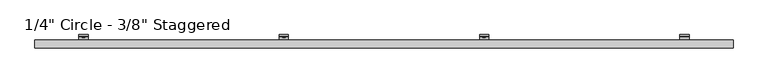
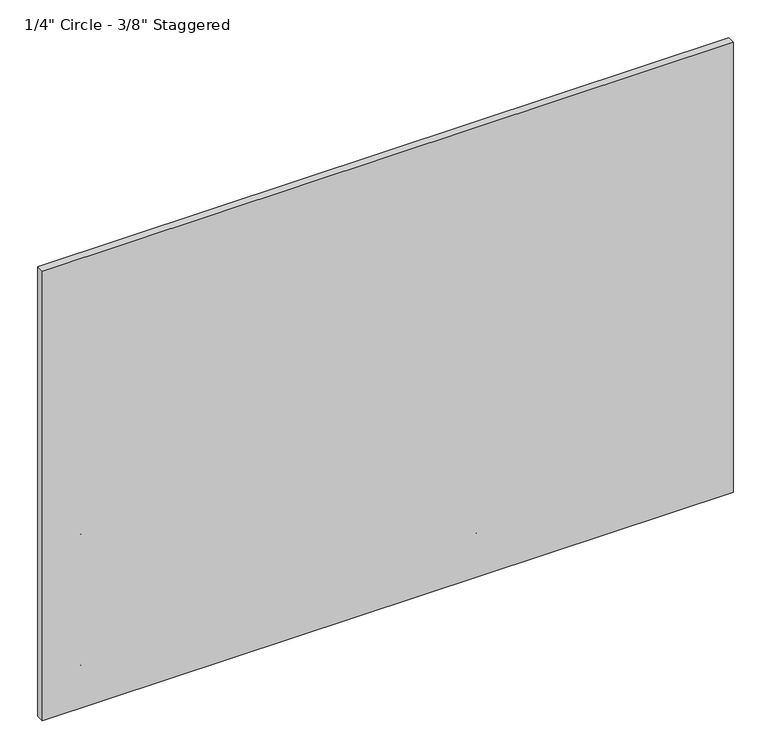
"""IFC4 building model written with IfcOpenShell, lengths in millimetres: plate geometry."""

from ifc_helpers import new_model, si_unit, point, frame, frame_2d, origin, place, context, project, spatial, polyline, circle_curve, trimmed, segment, composite_curve, outline, extrude, source, transform, mapped, element, save
from ifc_brep_helpers import plane_surface, cylinder_surface, revolved_surface, advanced_brep


def plate_e7208e3d(model_context):
    return source(origin(), model_context, "Body", "SolidModel", [
        advanced_brep(
        [(1236.096202, -47.625, 737.3555208), (1236.096202, -51.2819443, 729.6934884), (1236.096202, -89.5163624, 702.9214606), (1236.096202, -92.9330442, 706.3381424), (1236.096202, -54.3526876, 733.3523989), (1236.096202, -52.4002, 737.3555917), (1236.096202, -52.4002, 771.5482059), (1236.096202, -47.625, 771.5482059), (1274.196202, -47.625, 737.3555208), (1274.196202, -47.625, 771.5482059), (1274.196202, -52.4002, 771.5482059), (1274.196202, -52.4002, 737.3555917), (1274.196202, -54.3526876, 733.3523989), (1274.196202, -92.9330442, 706.3381424), (1274.196202, -89.5163624, 702.9214606), (1274.196202, -51.2819443, 729.6934884), (1261.8873909, -52.4002, 757.5029897), (1261.8873909, -52.4002, 751.1529897), (1245.6595307, -52.4002, 751.1529897), (1245.6595307, -52.4002, 757.5029897), (1261.8873909, -47.625, 751.1529897), (1261.8873909, -47.625, 757.5029897), (1245.6595307, -47.625, 757.5029897), (1245.6595307, -47.625, 751.1529897)],
        [
            (0, 1, circle_curve(frame((1236.096202, -57.4802202, 737.3555208), z_axis=(-1.0, 0.0, 0.0), x_axis=(0.0, -1.0, 0.0)), 9.8552202)),
            (1, 2),
            (2, 3),
            (3, 4),
            (4, 5, circle_curve(frame((1236.096202, -57.4803246, 737.3555917), z_axis=(1.0, 0.0, 0.0), x_axis=(0.0, -1.0, 0.0)), 5.0801246)),
            (5, 6),
            (6, 7),
            (7, 0),
            (8, 9),
            (9, 10),
            (10, 11),
            (11, 12, circle_curve(frame((1274.196202, -57.4803246, 737.3555917), z_axis=(-1.0, 0.0, 0.0), x_axis=(0.0, -1.0, 0.0)), 5.0801246)),
            (12, 13),
            (13, 14),
            (14, 15),
            (15, 8, circle_curve(frame((1274.196202, -57.4802202, 737.3555208), z_axis=(1.0, 0.0, 0.0), x_axis=(0.0, -1.0, 0.0)), 9.8552202)),
            (4, 12),
            (11, 5),
            (10, 6),
            (16, 17, circle_curve(frame((1261.8873909, -52.4002, 754.3279897), z_axis=(0.0, 1.0, 0.0), x_axis=(0.0, 0.0, -1.0)), 3.175)),
            (17, 18),
            (18, 19, circle_curve(frame((1245.6595307, -52.4002, 754.3279897), z_axis=(0.0, 1.0, 0.0), x_axis=(0.0, 0.0, -1.0)), 3.175)),
            (19, 16),
            (9, 7),
            (8, 0),
            (20, 21, circle_curve(frame((1261.8873909, -47.625, 754.3279897), z_axis=(0.0, -1.0, 0.0), x_axis=(0.0, 0.0, -1.0)), 3.175)),
            (21, 22),
            (22, 23, circle_curve(frame((1245.6595307, -47.625, 754.3279897), z_axis=(0.0, -1.0, 0.0), x_axis=(0.0, 0.0, -1.0)), 3.175)),
            (23, 20),
            (15, 1),
            (20, 17),
            (16, 21),
            (19, 22),
            (18, 23),
            (14, 2),
            (13, 3),
        ],
        [
            plane_surface(frame((1236.096202, -67.3354404, 737.3555208), z_axis=(-1.0, 0.0, 0.0), x_axis=(0.0, 0.0, 1.0))),
            plane_surface(frame((1274.196202, -67.3354404, 737.3555208), z_axis=(1.0, 0.0, 0.0), x_axis=(0.0, 0.0, -1.0))),
            revolved_surface(polyline([(1274.196202, -62.5604492, 737.3555917), (1236.096202, -62.5604492, 737.3555917)]), (1274.196202, -57.4803246, 737.3555917), (1.0, 0.0, 0.0)),
            plane_surface(frame((1236.096202, -52.4002, 737.3555917), z_axis=(0.0, -1.0, 0.0), x_axis=(1.0, 0.0, 0.0))),
            plane_surface(frame((1236.096202, -52.4002, 771.5482059), z_axis=(0.0, 0.0, 1.0), x_axis=(1.0, 0.0, 0.0))),
            plane_surface(frame((1236.096202, -47.625, 771.5482059), z_axis=(0.0, 1.0, 6.99569853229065e-12), x_axis=(1.0, 0.0, 0.0))),
            cylinder_surface(frame((1274.196202, -57.4802202, 737.3555208), z_axis=(-1.0, 0.0, 0.0), x_axis=(0.0, -1.0, 0.0)), 9.8552202),
            revolved_surface(polyline([(1261.8873909, -52.4002, 751.1529897), (1261.8873909, -47.625, 751.1529897)]), (1261.8873909, -25.6669948, 754.3279897), (0.0, -1.0, 0.0)),
            plane_surface(frame((1261.8873909, -86.677982, 757.5029897), z_axis=(0.0, 0.0, -1.0), x_axis=(0.0, 1.0, 0.0))),
            revolved_surface(polyline([(1245.6595307, -52.4002, 751.1529897), (1245.6595307, -47.625, 751.1529897)]), (1245.6595307, -25.6669948, 754.3279897), (0.0, -1.0, 0.0)),
            plane_surface(frame((1245.6595307, -86.677982, 751.1529897), z_axis=(-2.7237733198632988e-11, 0.0, 1.0), x_axis=(0.0, 1.0, 0.0))),
            plane_surface(frame((1236.096202, -51.2819443, 729.6934884), z_axis=(0.0, 0.5735764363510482, -0.8191520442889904), x_axis=(1.0, 0.0, 0.0))),
            plane_surface(frame((1236.096202, -89.5163624, 702.9214606), z_axis=(0.0, -0.7071067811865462, -0.7071067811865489), x_axis=(1.0, 0.0, 0.0))),
            plane_surface(frame((1236.096202, -92.9330442, 706.3381424), z_axis=(0.0, -0.5735764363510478, 0.8191520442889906), x_axis=(1.0, 0.0, 0.0))),
        ],
        [
            (0, [[1, 2, 3, 4, 5, 6, 7, 8]]),
            (1, [[9, 10, 11, 12, 13, 14, 15, 16]]),
            (2, [[-5, 17, -12, 18]]),
            (3, [[-6, -18, -11, 19], [20, 21, 22, 23]]),
            (4, [[-7, -19, -10, 24]]),
            (5, [[-8, -24, -9, 25], [26, 27, 28, 29]]),
            (6, [[-1, -25, -16, 30]]),
            (7, [[31, -20, 32, -26]]),
            (8, [[-32, -23, 33, -27]]),
            (9, [[-33, -22, 34, -28]]),
            (10, [[-31, -29, -34, -21]]),
            (11, [[-2, -30, -15, 35]]),
            (12, [[-3, -35, -14, 36]]),
            (13, [[-4, -36, -13, -17]]),
        ],
    ),
        extrude(outline(polyline([(754.5048329, 413.3640708), (750.1591204, 415.873069), (750.1591204, 420.8910656), (754.5048329, 423.4000639), (758.8505454, 420.8910656), (758.8505454, 415.873069), (754.5048329, 413.3640708)])), frame((0.0, -58.7607779, 0.0), z_axis=(0.0, 1.0, 0.0), x_axis=(0.0, 0.0, 1.0)), (0.0, 0.0, 1.0), 11.1357779),
        extrude(outline(composite_curve([segment(trimmed(circle_curve(frame_2d((754.5981399, 418.3820673)), 6.35), [point((754.5981399, 424.7320673))], [point((754.5981399, 412.0320673))], False, "CARTESIAN"), True, "CONTINUOUS"), segment(trimmed(circle_curve(frame_2d((754.5981399, 418.3820673)), 6.35), [point((754.5981399, 412.0320673))], [point((754.5981399, 424.7320673))], False, "CARTESIAN"), True, "CONTINUOUS")], self_intersect=False)), frame((0.0, -57.0817743, 0.0), z_axis=(0.0, 1.0, 0.0), x_axis=(0.0, 0.0, 1.0)), (0.0, 0.0, 1.0), 9.4567743),
        advanced_brep(
        [(399.3320673, -47.625, 737.3555208), (399.3320673, -51.2819443, 729.6934884), (399.3320673, -89.5163624, 702.9214606), (399.3320673, -92.9330442, 706.3381424), (399.3320673, -54.3526876, 733.3523989), (399.3320673, -52.4002, 737.3555917), (399.3320673, -52.4002, 771.5482059), (399.3320673, -47.625, 771.5482059), (437.4320673, -47.625, 737.3555208), (437.4320673, -47.625, 771.5482059), (437.4320673, -52.4002, 771.5482059), (437.4320673, -52.4002, 737.3555917), (437.4320673, -54.3526876, 733.3523989), (437.4320673, -92.9330442, 706.3381424), (437.4320673, -89.5163624, 702.9214606), (437.4320673, -51.2819443, 729.6934884), (425.1232562, -52.4002, 757.5029897), (425.1232562, -52.4002, 751.1529897), (408.895396, -52.4002, 751.1529897), (408.895396, -52.4002, 757.5029897), (425.1232562, -47.625, 751.1529897), (425.1232562, -47.625, 757.5029897), (408.895396, -47.625, 757.5029897), (408.895396, -47.625, 751.1529897)],
        [
            (0, 1, circle_curve(frame((399.3320673, -57.4802202, 737.3555208), z_axis=(-1.0, 0.0, 0.0), x_axis=(0.0, -1.0, 0.0)), 9.8552202)),
            (1, 2),
            (2, 3),
            (3, 4),
            (4, 5, circle_curve(frame((399.3320673, -57.4803246, 737.3555917), z_axis=(1.0, 0.0, 0.0), x_axis=(0.0, -1.0, 0.0)), 5.0801246)),
            (5, 6),
            (6, 7),
            (7, 0),
            (8, 9),
            (9, 10),
            (10, 11),
            (11, 12, circle_curve(frame((437.4320673, -57.4803246, 737.3555917), z_axis=(-1.0, 0.0, 0.0), x_axis=(0.0, -1.0, 0.0)), 5.0801246)),
            (12, 13),
            (13, 14),
            (14, 15),
            (15, 8, circle_curve(frame((437.4320673, -57.4802202, 737.3555208), z_axis=(1.0, 0.0, 0.0), x_axis=(0.0, -1.0, 0.0)), 9.8552202)),
            (4, 12),
            (11, 5),
            (10, 6),
            (16, 17, circle_curve(frame((425.1232562, -52.4002, 754.3279897), z_axis=(0.0, 1.0, 0.0), x_axis=(0.0, 0.0, -1.0)), 3.175)),
            (17, 18),
            (18, 19, circle_curve(frame((408.895396, -52.4002, 754.3279897), z_axis=(0.0, 1.0, 0.0), x_axis=(0.0, 0.0, -1.0)), 3.175)),
            (19, 16),
            (9, 7),
            (8, 0),
            (20, 21, circle_curve(frame((425.1232562, -47.625, 754.3279897), z_axis=(0.0, -1.0, 0.0), x_axis=(0.0, 0.0, -1.0)), 3.175)),
            (21, 22),
            (22, 23, circle_curve(frame((408.895396, -47.625, 754.3279897), z_axis=(0.0, -1.0, 0.0), x_axis=(0.0, 0.0, -1.0)), 3.175)),
            (23, 20),
            (15, 1),
            (20, 17),
            (16, 21),
            (19, 22),
            (18, 23),
            (14, 2),
            (13, 3),
        ],
        [
            plane_surface(frame((399.3320673, -67.3354404, 737.3555208), z_axis=(-1.0, 0.0, 0.0), x_axis=(0.0, 0.0, 1.0))),
            plane_surface(frame((437.4320673, -67.3354404, 737.3555208), z_axis=(1.0, 0.0, 0.0), x_axis=(0.0, 0.0, -1.0))),
            revolved_surface(polyline([(437.4320673, -62.5604492, 737.3555917), (399.3320673, -62.5604492, 737.3555917)]), (437.4320673, -57.4803246, 737.3555917), (1.0, 0.0, 0.0)),
            plane_surface(frame((399.3320673, -52.4002, 737.3555917), z_axis=(0.0, -1.0, 0.0), x_axis=(1.0, 0.0, 0.0))),
            plane_surface(frame((399.3320673, -52.4002, 771.5482059), z_axis=(0.0, 0.0, 1.0), x_axis=(1.0, 0.0, 0.0))),
            plane_surface(frame((399.3320673, -47.625, 771.5482059), z_axis=(0.0, 1.0, 6.99569853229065e-12), x_axis=(1.0, 0.0, 0.0))),
            cylinder_surface(frame((437.4320673, -57.4802202, 737.3555208), z_axis=(-1.0, 0.0, 0.0), x_axis=(0.0, -1.0, 0.0)), 9.8552202),
            revolved_surface(polyline([(425.1232562, -52.4002, 751.1529897), (425.1232562, -47.625, 751.1529897)]), (425.1232562, -25.6669948, 754.3279897), (0.0, -1.0, 0.0)),
            plane_surface(frame((425.1232562, -86.677982, 757.5029897), z_axis=(0.0, 0.0, -1.0), x_axis=(0.0, 1.0, 0.0))),
            revolved_surface(polyline([(408.895396, -52.4002, 751.1529897), (408.895396, -47.625, 751.1529897)]), (408.895396, -25.6669948, 754.3279897), (0.0, -1.0, 0.0)),
            plane_surface(frame((408.895396, -86.677982, 751.1529897), z_axis=(-2.7237733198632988e-11, 0.0, 1.0), x_axis=(0.0, 1.0, 0.0))),
            plane_surface(frame((399.3320673, -51.2819443, 729.6934884), z_axis=(0.0, 0.5735764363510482, -0.8191520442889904), x_axis=(1.0, 0.0, 0.0))),
            plane_surface(frame((399.3320673, -89.5163624, 702.9214606), z_axis=(0.0, -0.7071067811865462, -0.7071067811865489), x_axis=(1.0, 0.0, 0.0))),
            plane_surface(frame((399.3320673, -92.9330442, 706.3381424), z_axis=(0.0, -0.5735764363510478, 0.8191520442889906), x_axis=(1.0, 0.0, 0.0))),
        ],
        [
            (0, [[1, 2, 3, 4, 5, 6, 7, 8]]),
            (1, [[9, 10, 11, 12, 13, 14, 15, 16]]),
            (2, [[-5, 17, -12, 18]]),
            (3, [[-6, -18, -11, 19], [20, 21, 22, 23]]),
            (4, [[-7, -19, -10, 24]]),
            (5, [[-8, -24, -9, 25], [26, 27, 28, 29]]),
            (6, [[-1, -25, -16, 30]]),
            (7, [[31, -20, 32, -26]]),
            (8, [[-32, -23, 33, -27]]),
            (9, [[-33, -22, 34, -28]]),
            (10, [[-31, -29, -34, -21]]),
            (11, [[-2, -30, -15, 35]]),
            (12, [[-3, -35, -14, 36]]),
            (13, [[-4, -36, -13, -17]]),
        ],
    ),
        extrude(outline(polyline([(754.5048329, -423.4000639), (750.1591204, -420.8910656), (750.1591204, -415.873069), (754.5048329, -413.3640708), (758.8505454, -415.873069), (758.8505454, -420.8910656), (754.5048329, -423.4000639)])), frame((0.0, -58.7607779, 0.0), z_axis=(0.0, 1.0, 0.0), x_axis=(0.0, 0.0, 1.0)), (0.0, 0.0, 1.0), 11.1357779),
        extrude(outline(composite_curve([segment(trimmed(circle_curve(frame_2d((754.5981399, -418.3820673)), 6.35), [point((754.5981399, -412.0320673))], [point((754.5981399, -424.7320673))], False, "CARTESIAN"), True, "CONTINUOUS"), segment(trimmed(circle_curve(frame_2d((754.5981399, -418.3820673)), 6.35), [point((754.5981399, -424.7320673))], [point((754.5981399, -412.0320673))], False, "CARTESIAN"), True, "CONTINUOUS")], self_intersect=False)), frame((0.0, -57.0817743, 0.0), z_axis=(0.0, 1.0, 0.0), x_axis=(0.0, 0.0, 1.0)), (0.0, 0.0, 1.0), 9.4567743),
        advanced_brep(
        [(-437.4320673, -47.625, 737.3555208), (-437.4320673, -51.2819443, 729.6934884), (-437.4320673, -89.5163624, 702.9214606), (-437.4320673, -92.9330442, 706.3381424), (-437.4320673, -54.3526876, 733.3523989), (-437.4320673, -52.4002, 737.3555917), (-437.4320673, -52.4002, 771.5482059), (-437.4320673, -47.625, 771.5482059), (-399.3320673, -47.625, 737.3555208), (-399.3320673, -47.625, 771.5482059), (-399.3320673, -52.4002, 771.5482059), (-399.3320673, -52.4002, 737.3555917), (-399.3320673, -54.3526876, 733.3523989), (-399.3320673, -92.9330442, 706.3381424), (-399.3320673, -89.5163624, 702.9214606), (-399.3320673, -51.2819443, 729.6934884), (-411.6408784, -52.4002, 757.5029897), (-411.6408784, -52.4002, 751.1529897), (-427.8687386, -52.4002, 751.1529897), (-427.8687386, -52.4002, 757.5029897), (-411.6408784, -47.625, 751.1529897), (-411.6408784, -47.625, 757.5029897), (-427.8687386, -47.625, 757.5029897), (-427.8687386, -47.625, 751.1529897)],
        [
            (0, 1, circle_curve(frame((-437.4320673, -57.4802202, 737.3555208), z_axis=(-1.0, 0.0, 0.0), x_axis=(0.0, -1.0, 0.0)), 9.8552202)),
            (1, 2),
            (2, 3),
            (3, 4),
            (4, 5, circle_curve(frame((-437.4320673, -57.4803246, 737.3555917), z_axis=(1.0, 0.0, 0.0), x_axis=(0.0, -1.0, 0.0)), 5.0801246)),
            (5, 6),
            (6, 7),
            (7, 0),
            (8, 9),
            (9, 10),
            (10, 11),
            (11, 12, circle_curve(frame((-399.3320673, -57.4803246, 737.3555917), z_axis=(-1.0, 0.0, 0.0), x_axis=(0.0, -1.0, 0.0)), 5.0801246)),
            (12, 13),
            (13, 14),
            (14, 15),
            (15, 8, circle_curve(frame((-399.3320673, -57.4802202, 737.3555208), z_axis=(1.0, 0.0, 0.0), x_axis=(0.0, -1.0, 0.0)), 9.8552202)),
            (4, 12),
            (11, 5),
            (10, 6),
            (16, 17, circle_curve(frame((-411.6408784, -52.4002, 754.3279897), z_axis=(0.0, 1.0, 0.0), x_axis=(0.0, 0.0, -1.0)), 3.175)),
            (17, 18),
            (18, 19, circle_curve(frame((-427.8687386, -52.4002, 754.3279897), z_axis=(0.0, 1.0, 0.0), x_axis=(0.0, 0.0, -1.0)), 3.175)),
            (19, 16),
            (9, 7),
            (8, 0),
            (20, 21, circle_curve(frame((-411.6408784, -47.625, 754.3279897), z_axis=(0.0, -1.0, 0.0), x_axis=(0.0, 0.0, -1.0)), 3.175)),
            (21, 22),
            (22, 23, circle_curve(frame((-427.8687386, -47.625, 754.3279897), z_axis=(0.0, -1.0, 0.0), x_axis=(0.0, 0.0, -1.0)), 3.175)),
            (23, 20),
            (15, 1),
            (20, 17),
            (16, 21),
            (19, 22),
            (18, 23),
            (14, 2),
            (13, 3),
        ],
        [
            plane_surface(frame((-437.4320673, -67.3354404, 737.3555208), z_axis=(-1.0, 0.0, 0.0), x_axis=(0.0, 0.0, 1.0))),
            plane_surface(frame((-399.3320673, -67.3354404, 737.3555208), z_axis=(1.0, 0.0, 0.0), x_axis=(0.0, 0.0, -1.0))),
            revolved_surface(polyline([(-399.3320673, -62.5604492, 737.3555917), (-437.4320673, -62.5604492, 737.3555917)]), (-399.3320673, -57.4803246, 737.3555917), (1.0, 0.0, 0.0)),
            plane_surface(frame((-437.4320673, -52.4002, 737.3555917), z_axis=(0.0, -1.0, 0.0), x_axis=(1.0, 0.0, 0.0))),
            plane_surface(frame((-437.4320673, -52.4002, 771.5482059), z_axis=(0.0, 0.0, 1.0), x_axis=(1.0, 0.0, 0.0))),
            plane_surface(frame((-437.4320673, -47.625, 771.5482059), z_axis=(0.0, 1.0, 6.99569853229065e-12), x_axis=(1.0, 0.0, 0.0))),
            cylinder_surface(frame((-399.3320673, -57.4802202, 737.3555208), z_axis=(-1.0, 0.0, 0.0), x_axis=(0.0, -1.0, 0.0)), 9.8552202),
            revolved_surface(polyline([(-411.6408784, -52.4002, 751.1529897), (-411.6408784, -47.625, 751.1529897)]), (-411.6408784, -25.6669948, 754.3279897), (0.0, -1.0, 0.0)),
            plane_surface(frame((-411.6408784, -86.677982, 757.5029897), z_axis=(0.0, 0.0, -1.0), x_axis=(0.0, 1.0, 0.0))),
            revolved_surface(polyline([(-427.8687386, -52.4002, 751.1529897), (-427.8687386, -47.625, 751.1529897)]), (-427.8687386, -25.6669948, 754.3279897), (0.0, -1.0, 0.0)),
            plane_surface(frame((-427.8687386, -86.677982, 751.1529897), z_axis=(-2.7237733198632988e-11, 0.0, 1.0), x_axis=(0.0, 1.0, 0.0))),
            plane_surface(frame((-437.4320673, -51.2819443, 729.6934884), z_axis=(0.0, 0.5735764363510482, -0.8191520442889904), x_axis=(1.0, 0.0, 0.0))),
            plane_surface(frame((-437.4320673, -89.5163624, 702.9214606), z_axis=(0.0, -0.7071067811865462, -0.7071067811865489), x_axis=(1.0, 0.0, 0.0))),
            plane_surface(frame((-437.4320673, -92.9330442, 706.3381424), z_axis=(0.0, -0.5735764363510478, 0.8191520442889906), x_axis=(1.0, 0.0, 0.0))),
        ],
        [
            (0, [[1, 2, 3, 4, 5, 6, 7, 8]]),
            (1, [[9, 10, 11, 12, 13, 14, 15, 16]]),
            (2, [[-5, 17, -12, 18]]),
            (3, [[-6, -18, -11, 19], [20, 21, 22, 23]]),
            (4, [[-7, -19, -10, 24]]),
            (5, [[-8, -24, -9, 25], [26, 27, 28, 29]]),
            (6, [[-1, -25, -16, 30]]),
            (7, [[31, -20, 32, -26]]),
            (8, [[-32, -23, 33, -27]]),
            (9, [[-33, -22, 34, -28]]),
            (10, [[-31, -29, -34, -21]]),
            (11, [[-2, -30, -15, 35]]),
            (12, [[-3, -35, -14, 36]]),
            (13, [[-4, -36, -13, -17]]),
        ],
    ),
        extrude(outline(polyline([(754.5048329, -1260.1641986), (750.1591204, -1257.6552003), (750.1591204, -1252.6372037), (754.5048329, -1250.1282054), (758.8505454, -1252.6372037), (758.8505454, -1257.6552003), (754.5048329, -1260.1641986)])), frame((0.0, -58.7607779, 0.0), z_axis=(0.0, 1.0, 0.0), x_axis=(0.0, 0.0, 1.0)), (0.0, 0.0, 1.0), 11.1357779),
        extrude(outline(composite_curve([segment(trimmed(circle_curve(frame_2d((754.5981399, -1255.146202)), 6.35), [point((754.5981399, -1248.796202))], [point((754.5981399, -1261.496202))], False, "CARTESIAN"), True, "CONTINUOUS"), segment(trimmed(circle_curve(frame_2d((754.5981399, -1255.146202)), 6.35), [point((754.5981399, -1261.496202))], [point((754.5981399, -1248.796202))], False, "CARTESIAN"), True, "CONTINUOUS")], self_intersect=False)), frame((0.0, -57.0817743, 0.0), z_axis=(0.0, 1.0, 0.0), x_axis=(0.0, 0.0, 1.0)), (0.0, 0.0, 1.0), 9.4567743),
        advanced_brep(
        [(-1274.196202, -47.625, 737.3555208), (-1274.196202, -51.2819443, 729.6934884), (-1274.196202, -89.5163624, 702.9214606), (-1274.196202, -92.9330442, 706.3381424), (-1274.196202, -54.3526876, 733.3523989), (-1274.196202, -52.4002, 737.3555917), (-1274.196202, -52.4002, 771.5482059), (-1274.196202, -47.625, 771.5482059), (-1236.096202, -47.625, 737.3555208), (-1236.096202, -47.625, 771.5482059), (-1236.096202, -52.4002, 771.5482059), (-1236.096202, -52.4002, 737.3555917), (-1236.096202, -54.3526876, 733.3523989), (-1236.096202, -92.9330442, 706.3381424), (-1236.096202, -89.5163624, 702.9214606), (-1236.096202, -51.2819443, 729.6934884), (-1248.4050131, -52.4002, 757.5029897), (-1248.4050131, -52.4002, 751.1529897), (-1264.6328733, -52.4002, 751.1529897), (-1264.6328733, -52.4002, 757.5029897), (-1248.4050131, -47.625, 751.1529897), (-1248.4050131, -47.625, 757.5029897), (-1264.6328733, -47.625, 757.5029897), (-1264.6328733, -47.625, 751.1529897)],
        [
            (0, 1, circle_curve(frame((-1274.196202, -57.4802202, 737.3555208), z_axis=(-1.0, 0.0, 0.0), x_axis=(0.0, -1.0, 0.0)), 9.8552202)),
            (1, 2),
            (2, 3),
            (3, 4),
            (4, 5, circle_curve(frame((-1274.196202, -57.4803246, 737.3555917), z_axis=(1.0, 0.0, 0.0), x_axis=(0.0, -1.0, 0.0)), 5.0801246)),
            (5, 6),
            (6, 7),
            (7, 0),
            (8, 9),
            (9, 10),
            (10, 11),
            (11, 12, circle_curve(frame((-1236.096202, -57.4803246, 737.3555917), z_axis=(-1.0, 0.0, 0.0), x_axis=(0.0, -1.0, 0.0)), 5.0801246)),
            (12, 13),
            (13, 14),
            (14, 15),
            (15, 8, circle_curve(frame((-1236.096202, -57.4802202, 737.3555208), z_axis=(1.0, 0.0, 0.0), x_axis=(0.0, -1.0, 0.0)), 9.8552202)),
            (4, 12),
            (11, 5),
            (10, 6),
            (16, 17, circle_curve(frame((-1248.4050131, -52.4002, 754.3279897), z_axis=(0.0, 1.0, 0.0), x_axis=(0.0, 0.0, -1.0)), 3.175)),
            (17, 18),
            (18, 19, circle_curve(frame((-1264.6328733, -52.4002, 754.3279897), z_axis=(0.0, 1.0, 0.0), x_axis=(0.0, 0.0, -1.0)), 3.175)),
            (19, 16),
            (9, 7),
            (8, 0),
            (20, 21, circle_curve(frame((-1248.4050131, -47.625, 754.3279897), z_axis=(0.0, -1.0, 0.0), x_axis=(0.0, 0.0, -1.0)), 3.175)),
            (21, 22),
            (22, 23, circle_curve(frame((-1264.6328733, -47.625, 754.3279897), z_axis=(0.0, -1.0, 0.0), x_axis=(0.0, 0.0, -1.0)), 3.175)),
            (23, 20),
            (15, 1),
            (20, 17),
            (16, 21),
            (19, 22),
            (18, 23),
            (14, 2),
            (13, 3),
        ],
        [
            plane_surface(frame((-1274.196202, -67.3354404, 737.3555208), z_axis=(-1.0, 0.0, 0.0), x_axis=(0.0, 0.0, 1.0))),
            plane_surface(frame((-1236.096202, -67.3354404, 737.3555208), z_axis=(1.0, 0.0, 0.0), x_axis=(0.0, 0.0, -1.0))),
            revolved_surface(polyline([(-1236.096202, -62.5604492, 737.3555917), (-1274.196202, -62.5604492, 737.3555917)]), (-1236.096202, -57.4803246, 737.3555917), (1.0, 0.0, 0.0)),
            plane_surface(frame((-1274.196202, -52.4002, 737.3555917), z_axis=(0.0, -1.0, 0.0), x_axis=(1.0, 0.0, 0.0))),
            plane_surface(frame((-1274.196202, -52.4002, 771.5482059), z_axis=(0.0, 0.0, 1.0), x_axis=(1.0, 0.0, 0.0))),
            plane_surface(frame((-1274.196202, -47.625, 771.5482059), z_axis=(0.0, 1.0, 6.99569853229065e-12), x_axis=(1.0, 0.0, 0.0))),
            cylinder_surface(frame((-1236.096202, -57.4802202, 737.3555208), z_axis=(-1.0, 0.0, 0.0), x_axis=(0.0, -1.0, 0.0)), 9.8552202),
            revolved_surface(polyline([(-1248.4050131, -52.4002, 751.1529897), (-1248.4050131, -47.625, 751.1529897)]), (-1248.4050131, -25.6669948, 754.3279897), (0.0, -1.0, 0.0)),
            plane_surface(frame((-1248.4050131, -86.677982, 757.5029897), z_axis=(0.0, 0.0, -1.0), x_axis=(0.0, 1.0, 0.0))),
            revolved_surface(polyline([(-1264.6328733, -52.4002, 751.1529897), (-1264.6328733, -47.625, 751.1529897)]), (-1264.6328733, -25.6669948, 754.3279897), (0.0, -1.0, 0.0)),
            plane_surface(frame((-1264.6328733, -86.677982, 751.1529897), z_axis=(-2.7237733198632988e-11, 0.0, 1.0), x_axis=(0.0, 1.0, 0.0))),
            plane_surface(frame((-1274.196202, -51.2819443, 729.6934884), z_axis=(0.0, 0.5735764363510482, -0.8191520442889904), x_axis=(1.0, 0.0, 0.0))),
            plane_surface(frame((-1274.196202, -89.5163624, 702.9214606), z_axis=(0.0, -0.7071067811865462, -0.7071067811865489), x_axis=(1.0, 0.0, 0.0))),
            plane_surface(frame((-1274.196202, -92.9330442, 706.3381424), z_axis=(0.0, -0.5735764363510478, 0.8191520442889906), x_axis=(1.0, 0.0, 0.0))),
        ],
        [
            (0, [[1, 2, 3, 4, 5, 6, 7, 8]]),
            (1, [[9, 10, 11, 12, 13, 14, 15, 16]]),
            (2, [[-5, 17, -12, 18]]),
            (3, [[-6, -18, -11, 19], [20, 21, 22, 23]]),
            (4, [[-7, -19, -10, 24]]),
            (5, [[-8, -24, -9, 25], [26, 27, 28, 29]]),
            (6, [[-1, -25, -16, 30]]),
            (7, [[31, -20, 32, -26]]),
            (8, [[-32, -23, 33, -27]]),
            (9, [[-33, -22, 34, -28]]),
            (10, [[-31, -29, -34, -21]]),
            (11, [[-2, -30, -15, 35]]),
            (12, [[-3, -35, -14, 36]]),
            (13, [[-4, -36, -13, -17]]),
        ],
    ),
        extrude(outline(polyline([(169.8795323, 1250.1282054), (165.5338197, 1252.6372037), (165.5338197, 1257.6552003), (169.8795323, 1260.1641986), (174.2252448, 1257.6552003), (174.2252448, 1252.6372037), (169.8795323, 1250.1282054)])), frame((0.0, -58.7607779, 0.0), z_axis=(0.0, 1.0, 0.0), x_axis=(0.0, 0.0, 1.0)), (0.0, 0.0, 1.0), 11.1357779),
        extrude(outline(composite_curve([segment(trimmed(circle_curve(frame_2d((169.9728392, 1255.146202)), 6.35), [point((169.9728392, 1261.496202))], [point((169.9728392, 1248.796202))], False, "CARTESIAN"), True, "CONTINUOUS"), segment(trimmed(circle_curve(frame_2d((169.9728392, 1255.146202)), 6.35), [point((169.9728392, 1248.796202))], [point((169.9728392, 1261.496202))], False, "CARTESIAN"), True, "CONTINUOUS")], self_intersect=False)), frame((0.0, -57.0817743, 0.0), z_axis=(0.0, 1.0, 0.0), x_axis=(0.0, 0.0, 1.0)), (0.0, 0.0, 1.0), 9.4567743),
        advanced_brep(
        [(1236.096202, -47.625, 152.7302202), (1236.096202, -51.2819443, 145.0681877), (1236.096202, -89.5163624, 118.29616), (1236.096202, -92.9330442, 121.7128418), (1236.096202, -54.3526876, 148.7270983), (1236.096202, -52.4002, 152.7302911), (1236.096202, -52.4002, 186.9229053), (1236.096202, -47.625, 186.9229053), (1274.196202, -47.625, 152.7302202), (1274.196202, -47.625, 186.9229053), (1274.196202, -52.4002, 186.9229053), (1274.196202, -52.4002, 152.7302911), (1274.196202, -54.3526876, 148.7270983), (1274.196202, -92.9330442, 121.7128418), (1274.196202, -89.5163624, 118.29616), (1274.196202, -51.2819443, 145.0681877), (1261.8873909, -52.4002, 172.8776891), (1261.8873909, -52.4002, 166.5276891), (1245.6595307, -52.4002, 166.5276891), (1245.6595307, -52.4002, 172.8776891), (1261.8873909, -47.625, 166.5276891), (1261.8873909, -47.625, 172.8776891), (1245.6595307, -47.625, 172.8776891), (1245.6595307, -47.625, 166.5276891)],
        [
            (0, 1, circle_curve(frame((1236.096202, -57.4802202, 152.7302202), z_axis=(-1.0, 0.0, 0.0), x_axis=(0.0, -1.0, 0.0)), 9.8552202)),
            (1, 2),
            (2, 3),
            (3, 4),
            (4, 5, circle_curve(frame((1236.096202, -57.4803246, 152.7302911), z_axis=(1.0, 0.0, 0.0), x_axis=(0.0, -1.0, 0.0)), 5.0801246)),
            (5, 6),
            (6, 7),
            (7, 0),
            (8, 9),
            (9, 10),
            (10, 11),
            (11, 12, circle_curve(frame((1274.196202, -57.4803246, 152.7302911), z_axis=(-1.0, 0.0, 0.0), x_axis=(0.0, -1.0, 0.0)), 5.0801246)),
            (12, 13),
            (13, 14),
            (14, 15),
            (15, 8, circle_curve(frame((1274.196202, -57.4802202, 152.7302202), z_axis=(1.0, 0.0, 0.0), x_axis=(0.0, -1.0, 0.0)), 9.8552202)),
            (4, 12),
            (11, 5),
            (10, 6),
            (16, 17, circle_curve(frame((1261.8873909, -52.4002, 169.7026891), z_axis=(0.0, 1.0, 0.0), x_axis=(0.0, 0.0, -1.0)), 3.175)),
            (17, 18),
            (18, 19, circle_curve(frame((1245.6595307, -52.4002, 169.7026891), z_axis=(0.0, 1.0, 0.0), x_axis=(0.0, 0.0, -1.0)), 3.175)),
            (19, 16),
            (9, 7),
            (8, 0),
            (20, 21, circle_curve(frame((1261.8873909, -47.625, 169.7026891), z_axis=(0.0, -1.0, 0.0), x_axis=(0.0, 0.0, -1.0)), 3.175)),
            (21, 22),
            (22, 23, circle_curve(frame((1245.6595307, -47.625, 169.7026891), z_axis=(0.0, -1.0, 0.0), x_axis=(0.0, 0.0, -1.0)), 3.175)),
            (23, 20),
            (15, 1),
            (20, 17),
            (16, 21),
            (19, 22),
            (18, 23),
            (14, 2),
            (13, 3),
        ],
        [
            plane_surface(frame((1236.096202, -67.3354404, 152.7302202), z_axis=(-1.0, 0.0, 0.0), x_axis=(0.0, 0.0, 1.0))),
            plane_surface(frame((1274.196202, -67.3354404, 152.7302202), z_axis=(1.0, 0.0, 0.0), x_axis=(0.0, 0.0, -1.0))),
            revolved_surface(polyline([(1274.196202, -62.5604492, 152.7302911), (1236.096202, -62.5604492, 152.7302911)]), (1274.196202, -57.4803246, 152.7302911), (1.0, 0.0, 0.0)),
            plane_surface(frame((1236.096202, -52.4002, 152.7302911), z_axis=(0.0, -1.0, 0.0), x_axis=(1.0, 0.0, 0.0))),
            plane_surface(frame((1236.096202, -52.4002, 186.9229053), z_axis=(0.0, 0.0, 1.0), x_axis=(1.0, 0.0, 0.0))),
            plane_surface(frame((1236.096202, -47.625, 186.9229053), z_axis=(0.0, 1.0, 6.99569853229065e-12), x_axis=(1.0, 0.0, 0.0))),
            cylinder_surface(frame((1274.196202, -57.4802202, 152.7302202), z_axis=(-1.0, 0.0, 0.0), x_axis=(0.0, -1.0, 0.0)), 9.8552202),
            revolved_surface(polyline([(1261.8873909, -52.4002, 166.52768909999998), (1261.8873909, -47.625, 166.52768909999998)]), (1261.8873909, -25.6669948, 169.7026891), (0.0, -1.0, 0.0)),
            plane_surface(frame((1261.8873909, -86.677982, 172.8776891), z_axis=(0.0, 0.0, -1.0), x_axis=(0.0, 1.0, 0.0))),
            revolved_surface(polyline([(1245.6595307, -52.4002, 166.52768909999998), (1245.6595307, -47.625, 166.52768909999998)]), (1245.6595307, -25.6669948, 169.7026891), (0.0, -1.0, 0.0)),
            plane_surface(frame((1245.6595307, -86.677982, 166.5276891), z_axis=(-2.723774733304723e-11, 0.0, 1.0), x_axis=(0.0, 1.0, 0.0))),
            plane_surface(frame((1236.096202, -51.2819443, 145.0681877), z_axis=(0.0, 0.5735764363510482, -0.8191520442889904), x_axis=(1.0, 0.0, 0.0))),
            plane_surface(frame((1236.096202, -89.5163624, 118.29616), z_axis=(0.0, -0.7071067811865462, -0.7071067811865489), x_axis=(1.0, 0.0, 0.0))),
            plane_surface(frame((1236.096202, -92.9330442, 121.7128418), z_axis=(0.0, -0.5735764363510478, 0.8191520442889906), x_axis=(1.0, 0.0, 0.0))),
        ],
        [
            (0, [[1, 2, 3, 4, 5, 6, 7, 8]]),
            (1, [[9, 10, 11, 12, 13, 14, 15, 16]]),
            (2, [[-5, 17, -12, 18]]),
            (3, [[-6, -18, -11, 19], [20, 21, 22, 23]]),
            (4, [[-7, -19, -10, 24]]),
            (5, [[-8, -24, -9, 25], [26, 27, 28, 29]]),
            (6, [[-1, -25, -16, 30]]),
            (7, [[31, -20, 32, -26]]),
            (8, [[-32, -23, 33, -27]]),
            (9, [[-33, -22, 34, -28]]),
            (10, [[-31, -29, -34, -21]]),
            (11, [[-2, -30, -15, 35]]),
            (12, [[-3, -35, -14, 36]]),
            (13, [[-4, -36, -13, -17]]),
        ],
    ),
        extrude(outline(polyline([(169.8795323, 413.3640708), (165.5338197, 415.873069), (165.5338197, 420.8910656), (169.8795323, 423.4000639), (174.2252448, 420.8910656), (174.2252448, 415.873069), (169.8795323, 413.3640708)])), frame((0.0, -58.7607779, 0.0), z_axis=(0.0, 1.0, 0.0), x_axis=(0.0, 0.0, 1.0)), (0.0, 0.0, 1.0), 11.1357779),
        extrude(outline(composite_curve([segment(trimmed(circle_curve(frame_2d((169.9728392, 418.3820673)), 6.35), [point((169.9728392, 424.7320673))], [point((169.9728392, 412.0320673))], False, "CARTESIAN"), True, "CONTINUOUS"), segment(trimmed(circle_curve(frame_2d((169.9728392, 418.3820673)), 6.35), [point((169.9728392, 412.0320673))], [point((169.9728392, 424.7320673))], False, "CARTESIAN"), True, "CONTINUOUS")], self_intersect=False)), frame((0.0, -57.0817743, 0.0), z_axis=(0.0, 1.0, 0.0), x_axis=(0.0, 0.0, 1.0)), (0.0, 0.0, 1.0), 9.4567743),
        advanced_brep(
        [(399.3320673, -47.625, 152.7302202), (399.3320673, -51.2819443, 145.0681877), (399.3320673, -89.5163624, 118.29616), (399.3320673, -92.9330442, 121.7128418), (399.3320673, -54.3526876, 148.7270983), (399.3320673, -52.4002, 152.7302911), (399.3320673, -52.4002, 186.9229053), (399.3320673, -47.625, 186.9229053), (437.4320673, -47.625, 152.7302202), (437.4320673, -47.625, 186.9229053), (437.4320673, -52.4002, 186.9229053), (437.4320673, -52.4002, 152.7302911), (437.4320673, -54.3526876, 148.7270983), (437.4320673, -92.9330442, 121.7128418), (437.4320673, -89.5163624, 118.29616), (437.4320673, -51.2819443, 145.0681877), (425.1232562, -52.4002, 172.8776891), (425.1232562, -52.4002, 166.5276891), (408.895396, -52.4002, 166.5276891), (408.895396, -52.4002, 172.8776891), (425.1232562, -47.625, 166.5276891), (425.1232562, -47.625, 172.8776891), (408.895396, -47.625, 172.8776891), (408.895396, -47.625, 166.5276891)],
        [
            (0, 1, circle_curve(frame((399.3320673, -57.4802202, 152.7302202), z_axis=(-1.0, 0.0, 0.0), x_axis=(0.0, -1.0, 0.0)), 9.8552202)),
            (1, 2),
            (2, 3),
            (3, 4),
            (4, 5, circle_curve(frame((399.3320673, -57.4803246, 152.7302911), z_axis=(1.0, 0.0, 0.0), x_axis=(0.0, -1.0, 0.0)), 5.0801246)),
            (5, 6),
            (6, 7),
            (7, 0),
            (8, 9),
            (9, 10),
            (10, 11),
            (11, 12, circle_curve(frame((437.4320673, -57.4803246, 152.7302911), z_axis=(-1.0, 0.0, 0.0), x_axis=(0.0, -1.0, 0.0)), 5.0801246)),
            (12, 13),
            (13, 14),
            (14, 15),
            (15, 8, circle_curve(frame((437.4320673, -57.4802202, 152.7302202), z_axis=(1.0, 0.0, 0.0), x_axis=(0.0, -1.0, 0.0)), 9.8552202)),
            (4, 12),
            (11, 5),
            (10, 6),
            (16, 17, circle_curve(frame((425.1232562, -52.4002, 169.7026891), z_axis=(0.0, 1.0, 0.0), x_axis=(0.0, 0.0, -1.0)), 3.175)),
            (17, 18),
            (18, 19, circle_curve(frame((408.895396, -52.4002, 169.7026891), z_axis=(0.0, 1.0, 0.0), x_axis=(0.0, 0.0, -1.0)), 3.175)),
            (19, 16),
            (9, 7),
            (8, 0),
            (20, 21, circle_curve(frame((425.1232562, -47.625, 169.7026891), z_axis=(0.0, -1.0, 0.0), x_axis=(0.0, 0.0, -1.0)), 3.175)),
            (21, 22),
            (22, 23, circle_curve(frame((408.895396, -47.625, 169.7026891), z_axis=(0.0, -1.0, 0.0), x_axis=(0.0, 0.0, -1.0)), 3.175)),
            (23, 20),
            (15, 1),
            (20, 17),
            (16, 21),
            (19, 22),
            (18, 23),
            (14, 2),
            (13, 3),
        ],
        [
            plane_surface(frame((399.3320673, -67.3354404, 152.7302202), z_axis=(-1.0, 0.0, 0.0), x_axis=(0.0, 0.0, 1.0))),
            plane_surface(frame((437.4320673, -67.3354404, 152.7302202), z_axis=(1.0, 0.0, 0.0), x_axis=(0.0, 0.0, -1.0))),
            revolved_surface(polyline([(437.4320673, -62.5604492, 152.7302911), (399.3320673, -62.5604492, 152.7302911)]), (437.4320673, -57.4803246, 152.7302911), (1.0, 0.0, 0.0)),
            plane_surface(frame((399.3320673, -52.4002, 152.7302911), z_axis=(0.0, -1.0, 0.0), x_axis=(1.0, 0.0, 0.0))),
            plane_surface(frame((399.3320673, -52.4002, 186.9229053), z_axis=(0.0, 0.0, 1.0), x_axis=(1.0, 0.0, 0.0))),
            plane_surface(frame((399.3320673, -47.625, 186.9229053), z_axis=(0.0, 1.0, 6.99569853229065e-12), x_axis=(1.0, 0.0, 0.0))),
            cylinder_surface(frame((437.4320673, -57.4802202, 152.7302202), z_axis=(-1.0, 0.0, 0.0), x_axis=(0.0, -1.0, 0.0)), 9.8552202),
            revolved_surface(polyline([(425.1232562, -52.4002, 166.52768909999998), (425.1232562, -47.625, 166.52768909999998)]), (425.1232562, -25.6669948, 169.7026891), (0.0, -1.0, 0.0)),
            plane_surface(frame((425.1232562, -86.677982, 172.8776891), z_axis=(0.0, 0.0, -1.0), x_axis=(0.0, 1.0, 0.0))),
            revolved_surface(polyline([(408.895396, -52.4002, 166.52768909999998), (408.895396, -47.625, 166.52768909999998)]), (408.895396, -25.6669948, 169.7026891), (0.0, -1.0, 0.0)),
            plane_surface(frame((408.895396, -86.677982, 166.5276891), z_axis=(-2.723774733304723e-11, 0.0, 1.0), x_axis=(0.0, 1.0, 0.0))),
            plane_surface(frame((399.3320673, -51.2819443, 145.0681877), z_axis=(0.0, 0.5735764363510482, -0.8191520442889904), x_axis=(1.0, 0.0, 0.0))),
            plane_surface(frame((399.3320673, -89.5163624, 118.29616), z_axis=(0.0, -0.7071067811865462, -0.7071067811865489), x_axis=(1.0, 0.0, 0.0))),
            plane_surface(frame((399.3320673, -92.9330442, 121.7128418), z_axis=(0.0, -0.5735764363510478, 0.8191520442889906), x_axis=(1.0, 0.0, 0.0))),
        ],
        [
            (0, [[1, 2, 3, 4, 5, 6, 7, 8]]),
            (1, [[9, 10, 11, 12, 13, 14, 15, 16]]),
            (2, [[-5, 17, -12, 18]]),
            (3, [[-6, -18, -11, 19], [20, 21, 22, 23]]),
            (4, [[-7, -19, -10, 24]]),
            (5, [[-8, -24, -9, 25], [26, 27, 28, 29]]),
            (6, [[-1, -25, -16, 30]]),
            (7, [[31, -20, 32, -26]]),
            (8, [[-32, -23, 33, -27]]),
            (9, [[-33, -22, 34, -28]]),
            (10, [[-31, -29, -34, -21]]),
            (11, [[-2, -30, -15, 35]]),
            (12, [[-3, -35, -14, 36]]),
            (13, [[-4, -36, -13, -17]]),
        ],
    ),
        extrude(outline(polyline([(169.8795323, -423.4000639), (165.5338197, -420.8910656), (165.5338197, -415.873069), (169.8795323, -413.3640708), (174.2252448, -415.873069), (174.2252448, -420.8910656), (169.8795323, -423.4000639)])), frame((0.0, -58.7607779, 0.0), z_axis=(0.0, 1.0, 0.0), x_axis=(0.0, 0.0, 1.0)), (0.0, 0.0, 1.0), 11.1357779),
        extrude(outline(composite_curve([segment(trimmed(circle_curve(frame_2d((169.9728392, -418.3820673)), 6.35), [point((169.9728392, -412.0320673))], [point((169.9728392, -424.7320673))], False, "CARTESIAN"), True, "CONTINUOUS"), segment(trimmed(circle_curve(frame_2d((169.9728392, -418.3820673)), 6.35), [point((169.9728392, -424.7320673))], [point((169.9728392, -412.0320673))], False, "CARTESIAN"), True, "CONTINUOUS")], self_intersect=False)), frame((0.0, -57.0817743, 0.0), z_axis=(0.0, 1.0, 0.0), x_axis=(0.0, 0.0, 1.0)), (0.0, 0.0, 1.0), 9.4567743),
        advanced_brep(
        [(-437.4320673, -47.625, 152.7302202), (-437.4320673, -51.2819443, 145.0681877), (-437.4320673, -89.5163624, 118.29616), (-437.4320673, -92.9330442, 121.7128418), (-437.4320673, -54.3526876, 148.7270983), (-437.4320673, -52.4002, 152.7302911), (-437.4320673, -52.4002, 186.9229053), (-437.4320673, -47.625, 186.9229053), (-399.3320673, -47.625, 152.7302202), (-399.3320673, -47.625, 186.9229053), (-399.3320673, -52.4002, 186.9229053), (-399.3320673, -52.4002, 152.7302911), (-399.3320673, -54.3526876, 148.7270983), (-399.3320673, -92.9330442, 121.7128418), (-399.3320673, -89.5163624, 118.29616), (-399.3320673, -51.2819443, 145.0681877), (-411.6408784, -52.4002, 172.8776891), (-411.6408784, -52.4002, 166.5276891), (-427.8687386, -52.4002, 166.5276891), (-427.8687386, -52.4002, 172.8776891), (-411.6408784, -47.625, 166.5276891), (-411.6408784, -47.625, 172.8776891), (-427.8687386, -47.625, 172.8776891), (-427.8687386, -47.625, 166.5276891)],
        [
            (0, 1, circle_curve(frame((-437.4320673, -57.4802202, 152.7302202), z_axis=(-1.0, 0.0, 0.0), x_axis=(0.0, -1.0, 0.0)), 9.8552202)),
            (1, 2),
            (2, 3),
            (3, 4),
            (4, 5, circle_curve(frame((-437.4320673, -57.4803246, 152.7302911), z_axis=(1.0, 0.0, 0.0), x_axis=(0.0, -1.0, 0.0)), 5.0801246)),
            (5, 6),
            (6, 7),
            (7, 0),
            (8, 9),
            (9, 10),
            (10, 11),
            (11, 12, circle_curve(frame((-399.3320673, -57.4803246, 152.7302911), z_axis=(-1.0, 0.0, 0.0), x_axis=(0.0, -1.0, 0.0)), 5.0801246)),
            (12, 13),
            (13, 14),
            (14, 15),
            (15, 8, circle_curve(frame((-399.3320673, -57.4802202, 152.7302202), z_axis=(1.0, 0.0, 0.0), x_axis=(0.0, -1.0, 0.0)), 9.8552202)),
            (4, 12),
            (11, 5),
            (10, 6),
            (16, 17, circle_curve(frame((-411.6408784, -52.4002, 169.7026891), z_axis=(0.0, 1.0, 0.0), x_axis=(0.0, 0.0, -1.0)), 3.175)),
            (17, 18),
            (18, 19, circle_curve(frame((-427.8687386, -52.4002, 169.7026891), z_axis=(0.0, 1.0, 0.0), x_axis=(0.0, 0.0, -1.0)), 3.175)),
            (19, 16),
            (9, 7),
            (8, 0),
            (20, 21, circle_curve(frame((-411.6408784, -47.625, 169.7026891), z_axis=(0.0, -1.0, 0.0), x_axis=(0.0, 0.0, -1.0)), 3.175)),
            (21, 22),
            (22, 23, circle_curve(frame((-427.8687386, -47.625, 169.7026891), z_axis=(0.0, -1.0, 0.0), x_axis=(0.0, 0.0, -1.0)), 3.175)),
            (23, 20),
            (15, 1),
            (20, 17),
            (16, 21),
            (19, 22),
            (18, 23),
            (14, 2),
            (13, 3),
        ],
        [
            plane_surface(frame((-437.4320673, -67.3354404, 152.7302202), z_axis=(-1.0, 0.0, 0.0), x_axis=(0.0, 0.0, 1.0))),
            plane_surface(frame((-399.3320673, -67.3354404, 152.7302202), z_axis=(1.0, 0.0, 0.0), x_axis=(0.0, 0.0, -1.0))),
            revolved_surface(polyline([(-399.3320673, -62.5604492, 152.7302911), (-437.4320673, -62.5604492, 152.7302911)]), (-399.3320673, -57.4803246, 152.7302911), (1.0, 0.0, 0.0)),
            plane_surface(frame((-437.4320673, -52.4002, 152.7302911), z_axis=(0.0, -1.0, 0.0), x_axis=(1.0, 0.0, 0.0))),
            plane_surface(frame((-437.4320673, -52.4002, 186.9229053), z_axis=(0.0, 0.0, 1.0), x_axis=(1.0, 0.0, 0.0))),
            plane_surface(frame((-437.4320673, -47.625, 186.9229053), z_axis=(0.0, 1.0, 6.99569853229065e-12), x_axis=(1.0, 0.0, 0.0))),
            cylinder_surface(frame((-399.3320673, -57.4802202, 152.7302202), z_axis=(-1.0, 0.0, 0.0), x_axis=(0.0, -1.0, 0.0)), 9.8552202),
            revolved_surface(polyline([(-411.6408784, -52.4002, 166.52768909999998), (-411.6408784, -47.625, 166.52768909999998)]), (-411.6408784, -25.6669948, 169.7026891), (0.0, -1.0, 0.0)),
            plane_surface(frame((-411.6408784, -86.677982, 172.8776891), z_axis=(0.0, 0.0, -1.0), x_axis=(0.0, 1.0, 0.0))),
            revolved_surface(polyline([(-427.8687386, -52.4002, 166.52768909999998), (-427.8687386, -47.625, 166.52768909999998)]), (-427.8687386, -25.6669948, 169.7026891), (0.0, -1.0, 0.0)),
            plane_surface(frame((-427.8687386, -86.677982, 166.5276891), z_axis=(-2.723774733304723e-11, 0.0, 1.0), x_axis=(0.0, 1.0, 0.0))),
            plane_surface(frame((-437.4320673, -51.2819443, 145.0681877), z_axis=(0.0, 0.5735764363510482, -0.8191520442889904), x_axis=(1.0, 0.0, 0.0))),
            plane_surface(frame((-437.4320673, -89.5163624, 118.29616), z_axis=(0.0, -0.7071067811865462, -0.7071067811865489), x_axis=(1.0, 0.0, 0.0))),
            plane_surface(frame((-437.4320673, -92.9330442, 121.7128418), z_axis=(0.0, -0.5735764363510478, 0.8191520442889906), x_axis=(1.0, 0.0, 0.0))),
        ],
        [
            (0, [[1, 2, 3, 4, 5, 6, 7, 8]]),
            (1, [[9, 10, 11, 12, 13, 14, 15, 16]]),
            (2, [[-5, 17, -12, 18]]),
            (3, [[-6, -18, -11, 19], [20, 21, 22, 23]]),
            (4, [[-7, -19, -10, 24]]),
            (5, [[-8, -24, -9, 25], [26, 27, 28, 29]]),
            (6, [[-1, -25, -16, 30]]),
            (7, [[31, -20, 32, -26]]),
            (8, [[-32, -23, 33, -27]]),
            (9, [[-33, -22, 34, -28]]),
            (10, [[-31, -29, -34, -21]]),
            (11, [[-2, -30, -15, 35]]),
            (12, [[-3, -35, -14, 36]]),
            (13, [[-4, -36, -13, -17]]),
        ],
    ),
        extrude(outline(polyline([(169.8795323, -1260.1641986), (165.5338197, -1257.6552003), (165.5338197, -1252.6372037), (169.8795323, -1250.1282054), (174.2252448, -1252.6372037), (174.2252448, -1257.6552003), (169.8795323, -1260.1641986)])), frame((0.0, -58.7607779, 0.0), z_axis=(0.0, 1.0, 0.0), x_axis=(0.0, 0.0, 1.0)), (0.0, 0.0, 1.0), 11.1357779),
        extrude(outline(composite_curve([segment(trimmed(circle_curve(frame_2d((169.9728392, -1255.146202)), 6.35), [point((169.9728392, -1248.796202))], [point((169.9728392, -1261.496202))], False, "CARTESIAN"), True, "CONTINUOUS"), segment(trimmed(circle_curve(frame_2d((169.9728392, -1255.146202)), 6.35), [point((169.9728392, -1261.496202))], [point((169.9728392, -1248.796202))], False, "CARTESIAN"), True, "CONTINUOUS")], self_intersect=False)), frame((0.0, -57.0817743, 0.0), z_axis=(0.0, 1.0, 0.0), x_axis=(0.0, 0.0, 1.0)), (0.0, 0.0, 1.0), 9.4567743),
        advanced_brep(
        [(-1274.196202, -47.625, 152.7302202), (-1274.196202, -51.2819443, 145.0681877), (-1274.196202, -89.5163624, 118.29616), (-1274.196202, -92.9330442, 121.7128418), (-1274.196202, -54.3526876, 148.7270983), (-1274.196202, -52.4002, 152.7302911), (-1274.196202, -52.4002, 186.9229053), (-1274.196202, -47.625, 186.9229053), (-1236.096202, -47.625, 152.7302202), (-1236.096202, -47.625, 186.9229053), (-1236.096202, -52.4002, 186.9229053), (-1236.096202, -52.4002, 152.7302911), (-1236.096202, -54.3526876, 148.7270983), (-1236.096202, -92.9330442, 121.7128418), (-1236.096202, -89.5163624, 118.29616), (-1236.096202, -51.2819443, 145.0681877), (-1248.4050131, -52.4002, 172.8776891), (-1248.4050131, -52.4002, 166.5276891), (-1264.6328733, -52.4002, 166.5276891), (-1264.6328733, -52.4002, 172.8776891), (-1248.4050131, -47.625, 166.5276891), (-1248.4050131, -47.625, 172.8776891), (-1264.6328733, -47.625, 172.8776891), (-1264.6328733, -47.625, 166.5276891)],
        [
            (0, 1, circle_curve(frame((-1274.196202, -57.4802202, 152.7302202), z_axis=(-1.0, 0.0, 0.0), x_axis=(0.0, -1.0, 0.0)), 9.8552202)),
            (1, 2),
            (2, 3),
            (3, 4),
            (4, 5, circle_curve(frame((-1274.196202, -57.4803246, 152.7302911), z_axis=(1.0, 0.0, 0.0), x_axis=(0.0, -1.0, 0.0)), 5.0801246)),
            (5, 6),
            (6, 7),
            (7, 0),
            (8, 9),
            (9, 10),
            (10, 11),
            (11, 12, circle_curve(frame((-1236.096202, -57.4803246, 152.7302911), z_axis=(-1.0, 0.0, 0.0), x_axis=(0.0, -1.0, 0.0)), 5.0801246)),
            (12, 13),
            (13, 14),
            (14, 15),
            (15, 8, circle_curve(frame((-1236.096202, -57.4802202, 152.7302202), z_axis=(1.0, 0.0, 0.0), x_axis=(0.0, -1.0, 0.0)), 9.8552202)),
            (4, 12),
            (11, 5),
            (10, 6),
            (16, 17, circle_curve(frame((-1248.4050131, -52.4002, 169.7026891), z_axis=(0.0, 1.0, 0.0), x_axis=(0.0, 0.0, -1.0)), 3.175)),
            (17, 18),
            (18, 19, circle_curve(frame((-1264.6328733, -52.4002, 169.7026891), z_axis=(0.0, 1.0, 0.0), x_axis=(0.0, 0.0, -1.0)), 3.175)),
            (19, 16),
            (9, 7),
            (8, 0),
            (20, 21, circle_curve(frame((-1248.4050131, -47.625, 169.7026891), z_axis=(0.0, -1.0, 0.0), x_axis=(0.0, 0.0, -1.0)), 3.175)),
            (21, 22),
            (22, 23, circle_curve(frame((-1264.6328733, -47.625, 169.7026891), z_axis=(0.0, -1.0, 0.0), x_axis=(0.0, 0.0, -1.0)), 3.175)),
            (23, 20),
            (15, 1),
            (20, 17),
            (16, 21),
            (19, 22),
            (18, 23),
            (14, 2),
            (13, 3),
        ],
        [
            plane_surface(frame((-1274.196202, -67.3354404, 152.7302202), z_axis=(-1.0, 0.0, 0.0), x_axis=(0.0, 0.0, 1.0))),
            plane_surface(frame((-1236.096202, -67.3354404, 152.7302202), z_axis=(1.0, 0.0, 0.0), x_axis=(0.0, 0.0, -1.0))),
            revolved_surface(polyline([(-1236.096202, -62.5604492, 152.7302911), (-1274.196202, -62.5604492, 152.7302911)]), (-1236.096202, -57.4803246, 152.7302911), (1.0, 0.0, 0.0)),
            plane_surface(frame((-1274.196202, -52.4002, 152.7302911), z_axis=(0.0, -1.0, 0.0), x_axis=(1.0, 0.0, 0.0))),
            plane_surface(frame((-1274.196202, -52.4002, 186.9229053), z_axis=(0.0, 0.0, 1.0), x_axis=(1.0, 0.0, 0.0))),
            plane_surface(frame((-1274.196202, -47.625, 186.9229053), z_axis=(0.0, 1.0, 6.99569853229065e-12), x_axis=(1.0, 0.0, 0.0))),
            cylinder_surface(frame((-1236.096202, -57.4802202, 152.7302202), z_axis=(-1.0, 0.0, 0.0), x_axis=(0.0, -1.0, 0.0)), 9.8552202),
            revolved_surface(polyline([(-1248.4050131, -52.4002, 166.52768909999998), (-1248.4050131, -47.625, 166.52768909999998)]), (-1248.4050131, -25.6669948, 169.7026891), (0.0, -1.0, 0.0)),
            plane_surface(frame((-1248.4050131, -86.677982, 172.8776891), z_axis=(0.0, 0.0, -1.0), x_axis=(0.0, 1.0, 0.0))),
            revolved_surface(polyline([(-1264.6328733, -52.4002, 166.52768909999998), (-1264.6328733, -47.625, 166.52768909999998)]), (-1264.6328733, -25.6669948, 169.7026891), (0.0, -1.0, 0.0)),
            plane_surface(frame((-1264.6328733, -86.677982, 166.5276891), z_axis=(-2.723774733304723e-11, 0.0, 1.0), x_axis=(0.0, 1.0, 0.0))),
            plane_surface(frame((-1274.196202, -51.2819443, 145.0681877), z_axis=(0.0, 0.5735764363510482, -0.8191520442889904), x_axis=(1.0, 0.0, 0.0))),
            plane_surface(frame((-1274.196202, -89.5163624, 118.29616), z_axis=(0.0, -0.7071067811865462, -0.7071067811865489), x_axis=(1.0, 0.0, 0.0))),
            plane_surface(frame((-1274.196202, -92.9330442, 121.7128418), z_axis=(0.0, -0.5735764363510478, 0.8191520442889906), x_axis=(1.0, 0.0, 0.0))),
        ],
        [
            (0, [[1, 2, 3, 4, 5, 6, 7, 8]]),
            (1, [[9, 10, 11, 12, 13, 14, 15, 16]]),
            (2, [[-5, 17, -12, 18]]),
            (3, [[-6, -18, -11, 19], [20, 21, 22, 23]]),
            (4, [[-7, -19, -10, 24]]),
            (5, [[-8, -24, -9, 25], [26, 27, 28, 29]]),
            (6, [[-1, -25, -16, 30]]),
            (7, [[31, -20, 32, -26]]),
            (8, [[-32, -23, 33, -27]]),
            (9, [[-33, -22, 34, -28]]),
            (10, [[-31, -29, -34, -21]]),
            (11, [[-2, -30, -15, 35]]),
            (12, [[-3, -35, -14, 36]]),
            (13, [[-4, -36, -13, -17]]),
        ],
    ),
        extrude(outline(polyline([(1458.346202, -102.4064478), (-1458.346202, -102.4064478), (-1458.346202, -69.9147678), (1458.346202, -69.9147678), (1458.346202, -102.4064478)])), frame((0.0, 0.0, 15.875), z_axis=(0.0, 0.0, 1.0), x_axis=(1.0, 0.0, 0.0)), (0.0, 0.0, 1.0), 2007.8759019),
    ])


if __name__ == "__main__":
    model = new_model("IFC4")
    model_context = context("Model", 3, world=origin())
    ifc_project = project(units=[si_unit("LENGTHUNIT", "METRE", prefix="MILLI")], contexts=[model_context])
    site = spatial("IfcSite", under=ifc_project)
    building = spatial("IfcBuilding", under=site)
    placement = place(None, origin())
    plate_shape = plate_e7208e3d(model_context)
    element("IfcPlate", 1, ObjectType="Single-Panel-Perforated-Amico_Architectural : 1/4\" Circle - 3/8\" Staggered", at=placement, inside=building, context=model_context, shape_type="MappedRepresentation", body=[
        mapped(plate_shape, transform((0.0, 0.0, 0.0), x_axis=(1.0, 0.0, 0.0), y_axis=(0.0, 1.0, 0.0), z_axis=(0.0, 0.0, 1.0))),
    ])
    save(model, "model.ifc")
